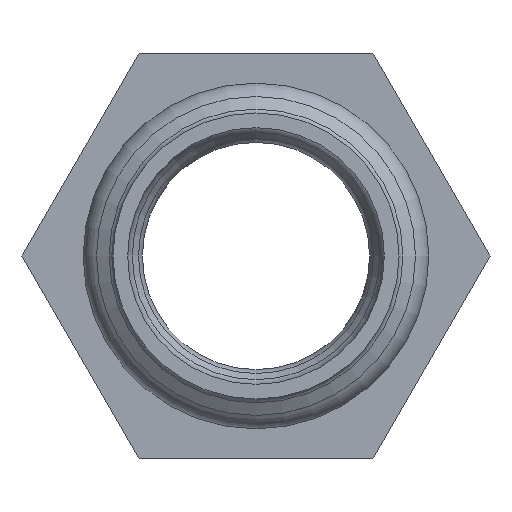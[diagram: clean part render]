
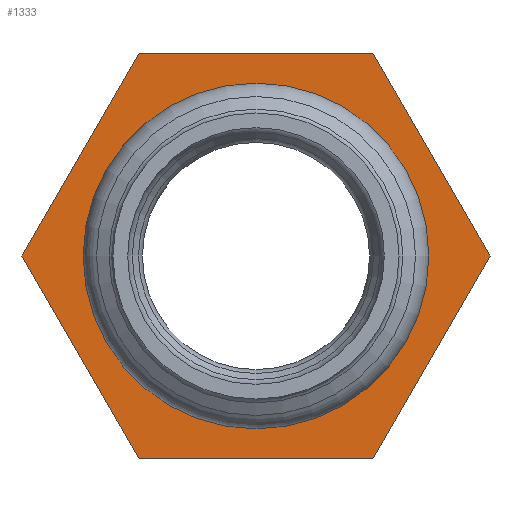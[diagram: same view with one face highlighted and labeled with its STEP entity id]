
A CAD part, left-side view. The second image highlights one B-rep face of the part: STEP entity #1333.
In plain terms, the highlighted planar face has unit normal (-1, 0, 0).
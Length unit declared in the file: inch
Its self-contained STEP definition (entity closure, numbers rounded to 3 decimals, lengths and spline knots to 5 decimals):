
#49=FACE_BOUND('',#206,.T.);
#55=PLANE('',#1568);
#144=FACE_OUTER_BOUND('',#205,.T.);
#205=EDGE_LOOP('',(#1174,#1175,#1176,#1177,#1178,#1179));
#206=EDGE_LOOP('',(#1180));
#240=LINE('',#2464,#283);
#241=LINE('',#2466,#284);
#242=LINE('',#2468,#285);
#243=LINE('',#2470,#286);
#244=LINE('',#2472,#287);
#245=LINE('',#2473,#288);
#283=VECTOR('',#2032,0.3937);
#284=VECTOR('',#2033,0.3937);
#285=VECTOR('',#2034,0.3937);
#286=VECTOR('',#2035,0.3937);
#287=VECTOR('',#2036,0.3937);
#288=VECTOR('',#2037,0.3937);
#456=CIRCLE('',#1563,1.14);
#594=VERTEX_POINT('',#2452);
#597=VERTEX_POINT('',#2462);
#598=VERTEX_POINT('',#2463);
#599=VERTEX_POINT('',#2465);
#600=VERTEX_POINT('',#2467);
#601=VERTEX_POINT('',#2469);
#602=VERTEX_POINT('',#2471);
#788=EDGE_CURVE('',#594,#594,#456,.T.);
#792=EDGE_CURVE('',#597,#598,#240,.T.);
#793=EDGE_CURVE('',#598,#599,#241,.T.);
#794=EDGE_CURVE('',#599,#600,#242,.T.);
#795=EDGE_CURVE('',#600,#601,#243,.T.);
#796=EDGE_CURVE('',#601,#602,#244,.T.);
#797=EDGE_CURVE('',#602,#597,#245,.T.);
#1174=ORIENTED_EDGE('',*,*,#792,.T.);
#1175=ORIENTED_EDGE('',*,*,#793,.T.);
#1176=ORIENTED_EDGE('',*,*,#794,.T.);
#1177=ORIENTED_EDGE('',*,*,#795,.T.);
#1178=ORIENTED_EDGE('',*,*,#796,.T.);
#1179=ORIENTED_EDGE('',*,*,#797,.T.);
#1180=ORIENTED_EDGE('',*,*,#788,.T.);
#1333=ADVANCED_FACE('',(#144,#49),#55,.F.);
#1563=AXIS2_PLACEMENT_3D('',#2453,#2019,#2020);
#1568=AXIS2_PLACEMENT_3D('',#2461,#2030,#2031);
#2019=DIRECTION('center_axis',(1.,0.,0.));
#2020=DIRECTION('ref_axis',(0.,1.,0.));
#2030=DIRECTION('center_axis',(1.,0.,0.));
#2031=DIRECTION('ref_axis',(0.,0.,-1.));
#2032=DIRECTION('',(0.,-0.5,-0.866));
#2033=DIRECTION('',(0.,-1.,0.));
#2034=DIRECTION('',(0.,-0.5,0.866));
#2035=DIRECTION('',(0.,0.5,0.866));
#2036=DIRECTION('',(0.,1.,0.));
#2037=DIRECTION('',(0.,0.5,-0.866));
#2452=CARTESIAN_POINT('',(-0.53,-1.14,0.));
#2453=CARTESIAN_POINT('Origin',(-0.53,0.,0.));
#2461=CARTESIAN_POINT('Origin',(-0.53,0.,0.));
#2462=CARTESIAN_POINT('',(-0.53,1.73205,0.));
#2463=CARTESIAN_POINT('',(-0.53,0.86603,-1.5));
#2464=CARTESIAN_POINT('',(-0.53,1.73205,0.));
#2465=CARTESIAN_POINT('',(-0.53,-0.86603,-1.5));
#2466=CARTESIAN_POINT('',(-0.53,0.86603,-1.5));
#2467=CARTESIAN_POINT('',(-0.53,-1.73205,0.));
#2468=CARTESIAN_POINT('',(-0.53,-0.86603,-1.5));
#2469=CARTESIAN_POINT('',(-0.53,-0.86603,1.5));
#2470=CARTESIAN_POINT('',(-0.53,-1.73205,0.));
#2471=CARTESIAN_POINT('',(-0.53,0.86603,1.5));
#2472=CARTESIAN_POINT('',(-0.53,-0.86603,1.5));
#2473=CARTESIAN_POINT('',(-0.53,0.86603,1.5));
